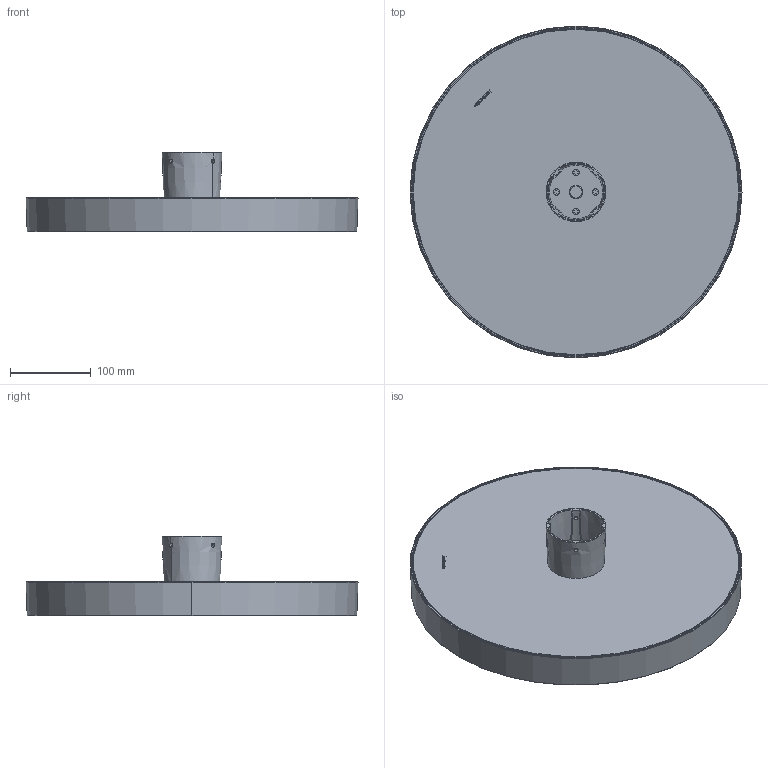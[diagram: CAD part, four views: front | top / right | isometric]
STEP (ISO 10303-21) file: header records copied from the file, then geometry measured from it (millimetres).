
FILE_DESCRIPTION((''),'2;1');
FILE_NAME('ON-OFF-180__PRES_CREP_SW0001','2025-07-24T14:20:11',('Piccioli'),(''),'CREO PARAMETRIC BY PTC INC, 2025010','CREO PARAMETRIC BY PTC INC, 2025010','');
FILE_SCHEMA(('CONFIG_CONTROL_DESIGN'));
Length unit declared in the file: millimetre
Products named in the file (1): ON-OFF-180__PRES_CREP_SW0001
Bounding box: 409.96 x 409.96 x 98 mm (x, y, z)
Surface area: 556023.6 mm2 (no closed solid volume)
Topology: 0 solids, 93 shells, 137 faces, 1030 edges, 985 vertices
Faces by surface type: plane 91, cone 22, torus 14, cylinder 10
Entity records: 13386 total; most frequent: CARTESIAN_POINT 6291, DIRECTION 1364, ORIENTED_EDGE 1115, EDGE_CURVE 1030, VERTEX_POINT 985, AXIS2_PLACEMENT_3D 497, VECTOR 370, LINE 370
